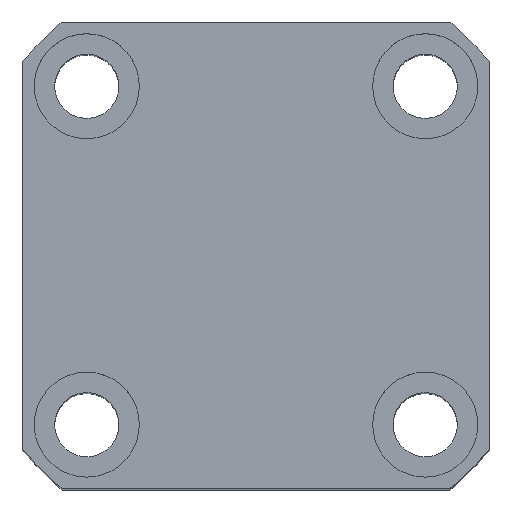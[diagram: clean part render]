
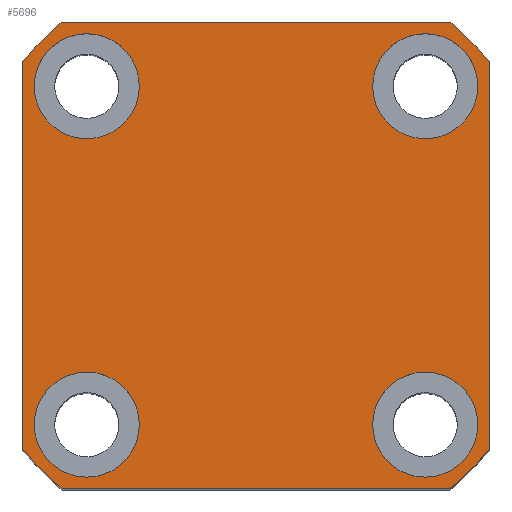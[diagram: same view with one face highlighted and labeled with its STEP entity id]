
A CAD part, top view. The second image highlights one B-rep face of the part: STEP entity #5696.
In plain terms, the highlighted planar face has unit normal (0, 0, 1).
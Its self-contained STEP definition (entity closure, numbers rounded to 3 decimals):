
#60 = VERTEX_POINT ( 'NONE', #1323 ) ;
#182 = EDGE_CURVE ( 'NONE', #425, #13714, #9238, .T. ) ;
#325 = ORIENTED_EDGE ( 'NONE', *, *, #10266, .F. ) ;
#346 = EDGE_LOOP ( 'NONE', ( #2213, #2320, #11495, #5745, #1855, #2074, #8862, #2486 ) ) ;
#425 = VERTEX_POINT ( 'NONE', #3259 ) ;
#501 = VERTEX_POINT ( 'NONE', #6821 ) ;
#619 = CARTESIAN_POINT ( 'NONE',  ( 40., -33.226, 60. ) ) ;
#685 = VERTEX_POINT ( 'NONE', #8089 ) ;
#728 = CARTESIAN_POINT ( 'NONE',  ( 38., -29., 60. ) ) ;
#837 = CARTESIAN_POINT ( 'NONE',  ( 0., 0., 60. ) ) ;
#855 = DIRECTION ( 'NONE',  ( 0., 0., 1. ) ) ;
#900 = DIRECTION ( 'NONE',  ( 1., 0., 0. ) ) ;
#920 = DIRECTION ( 'NONE',  ( 1., 0., 0. ) ) ;
#1323 = CARTESIAN_POINT ( 'NONE',  ( -40., 33.226, 60. ) ) ;
#1635 = DIRECTION ( 'NONE',  ( 0., 0., 1. ) ) ;
#1679 = EDGE_LOOP ( 'NONE', ( #5724, #10467 ) ) ;
#1855 = ORIENTED_EDGE ( 'NONE', *, *, #12272, .T. ) ;
#1912 = AXIS2_PLACEMENT_3D ( 'NONE', #8955, #2137, #10107 ) ;
#1946 = DIRECTION ( 'NONE',  ( 0., 0., 1. ) ) ;
#1963 = FACE_BOUND ( 'NONE', #5593, .T. ) ;
#2074 = ORIENTED_EDGE ( 'NONE', *, *, #14121, .T. ) ;
#2137 = DIRECTION ( 'NONE',  ( 0., 0., 1. ) ) ;
#2213 = ORIENTED_EDGE ( 'NONE', *, *, #4328, .T. ) ;
#2320 = ORIENTED_EDGE ( 'NONE', *, *, #11425, .T. ) ;
#2482 = EDGE_CURVE ( 'NONE', #12531, #425, #6650, .T. ) ;
#2486 = ORIENTED_EDGE ( 'NONE', *, *, #8775, .T. ) ;
#2795 = DIRECTION ( 'NONE',  ( 0., 0., 1. ) ) ;
#2817 = CARTESIAN_POINT ( 'NONE',  ( -29., -29., 60. ) ) ;
#2991 = CARTESIAN_POINT ( 'NONE',  ( 20., 29., 60. ) ) ;
#3035 = AXIS2_PLACEMENT_3D ( 'NONE', #8858, #855, #6631 ) ;
#3124 = CIRCLE ( 'NONE', #11826, 9. ) ;
#3203 = EDGE_CURVE ( 'NONE', #12970, #6734, #13859, .T. ) ;
#3259 = CARTESIAN_POINT ( 'NONE',  ( -33.226, -40., 60. ) ) ;
#3651 = DIRECTION ( 'NONE',  ( 0., 1., 0. ) ) ;
#3732 = FACE_BOUND ( 'NONE', #1679, .T. ) ;
#3741 = CIRCLE ( 'NONE', #11469, 52. ) ;
#3825 = CARTESIAN_POINT ( 'NONE',  ( -33.226, -40., 60. ) ) ;
#3935 = CARTESIAN_POINT ( 'NONE',  ( -29., -29., 60. ) ) ;
#4092 = CARTESIAN_POINT ( 'NONE',  ( -29., 29., 60. ) ) ;
#4328 = EDGE_CURVE ( 'NONE', #8240, #60, #3741, .T. ) ;
#4395 = DIRECTION ( 'NONE',  ( 1., 0., 0. ) ) ;
#4399 = CIRCLE ( 'NONE', #9200, 9. ) ;
#4416 = FACE_BOUND ( 'NONE', #8848, .T. ) ;
#4463 = VERTEX_POINT ( 'NONE', #728 ) ;
#4594 = AXIS2_PLACEMENT_3D ( 'NONE', #837, #1946, #11043 ) ;
#4793 = AXIS2_PLACEMENT_3D ( 'NONE', #4092, #9764, #8592 ) ;
#4985 = AXIS2_PLACEMENT_3D ( 'NONE', #2817, #1635, #9597 ) ;
#5058 = CARTESIAN_POINT ( 'NONE',  ( -33.226, 40., 60. ) ) ;
#5208 = VERTEX_POINT ( 'NONE', #11144 ) ;
#5211 = VERTEX_POINT ( 'NONE', #619 ) ;
#5383 = AXIS2_PLACEMENT_3D ( 'NONE', #12206, #11110, #4395 ) ;
#5467 = CIRCLE ( 'NONE', #6775, 9. ) ;
#5570 = EDGE_CURVE ( 'NONE', #6852, #9877, #8375, .T. ) ;
#5593 = EDGE_LOOP ( 'NONE', ( #10207, #7217 ) ) ;
#5672 = ORIENTED_EDGE ( 'NONE', *, *, #7394, .F. ) ;
#5696 = ADVANCED_FACE ( 'NONE', ( #7983, #4416, #1963, #3732, #13335 ), #13219, .T. ) ;
#5724 = ORIENTED_EDGE ( 'NONE', *, *, #3203, .F. ) ;
#5745 = ORIENTED_EDGE ( 'NONE', *, *, #182, .T. ) ;
#5754 = VECTOR ( 'NONE', #3651, 1000. ) ;
#5865 = VERTEX_POINT ( 'NONE', #9036 ) ;
#5966 = EDGE_CURVE ( 'NONE', #9877, #6852, #6036, .T. ) ;
#6036 = CIRCLE ( 'NONE', #10451, 9. ) ;
#6132 = EDGE_CURVE ( 'NONE', #5865, #5208, #9440, .T. ) ;
#6142 = CIRCLE ( 'NONE', #11046, 52. ) ;
#6206 = CARTESIAN_POINT ( 'NONE',  ( 33.226, -40., 60. ) ) ;
#6225 = EDGE_CURVE ( 'NONE', #4463, #6542, #4399, .T. ) ;
#6288 = CARTESIAN_POINT ( 'NONE',  ( 29., 29., 60. ) ) ;
#6542 = VERTEX_POINT ( 'NONE', #13447 ) ;
#6582 = DIRECTION ( 'NONE',  ( 0., 0., 1. ) ) ;
#6631 = DIRECTION ( 'NONE',  ( 1., 0., 0. ) ) ;
#6650 = CIRCLE ( 'NONE', #3035, 52. ) ;
#6734 = VERTEX_POINT ( 'NONE', #2991 ) ;
#6775 = AXIS2_PLACEMENT_3D ( 'NONE', #11133, #7705, #920 ) ;
#6813 = CARTESIAN_POINT ( 'NONE',  ( -29., 29., 60. ) ) ;
#6821 = CARTESIAN_POINT ( 'NONE',  ( 33.226, 40., 60. ) ) ;
#6852 = VERTEX_POINT ( 'NONE', #9735 ) ;
#7126 = CARTESIAN_POINT ( 'NONE',  ( 0., 0., 60. ) ) ;
#7217 = ORIENTED_EDGE ( 'NONE', *, *, #5966, .F. ) ;
#7284 = DIRECTION ( 'NONE',  ( 0., 0., 1. ) ) ;
#7394 = EDGE_CURVE ( 'NONE', #6542, #4463, #5467, .T. ) ;
#7527 = CARTESIAN_POINT ( 'NONE',  ( -40., -33.226, 60. ) ) ;
#7683 = CARTESIAN_POINT ( 'NONE',  ( 0., 0., 60. ) ) ;
#7705 = DIRECTION ( 'NONE',  ( 0., 0., 1. ) ) ;
#7775 = EDGE_LOOP ( 'NONE', ( #7807, #5672 ) ) ;
#7807 = ORIENTED_EDGE ( 'NONE', *, *, #6225, .F. ) ;
#7964 = DIRECTION ( 'NONE',  ( 1., 0., 0. ) ) ;
#7983 = FACE_BOUND ( 'NONE', #7775, .T. ) ;
#8072 = DIRECTION ( 'NONE',  ( 0., 0., 1. ) ) ;
#8089 = CARTESIAN_POINT ( 'NONE',  ( 40., 33.226, 60. ) ) ;
#8240 = VERTEX_POINT ( 'NONE', #11558 ) ;
#8375 = CIRCLE ( 'NONE', #4793, 9. ) ;
#8592 = DIRECTION ( 'NONE',  ( 1., 0., 0. ) ) ;
#8775 = EDGE_CURVE ( 'NONE', #501, #8240, #12175, .T. ) ;
#8793 = LINE ( 'NONE', #12718, #5754 ) ;
#8848 = EDGE_LOOP ( 'NONE', ( #10848, #325 ) ) ;
#8858 = CARTESIAN_POINT ( 'NONE',  ( 0., 0., 60. ) ) ;
#8862 = ORIENTED_EDGE ( 'NONE', *, *, #12337, .T. ) ;
#8907 = CARTESIAN_POINT ( 'NONE',  ( 29., -29., 60. ) ) ;
#8955 = CARTESIAN_POINT ( 'NONE',  ( 29., 29., 60. ) ) ;
#9036 = CARTESIAN_POINT ( 'NONE',  ( -20., -29., 60. ) ) ;
#9200 = AXIS2_PLACEMENT_3D ( 'NONE', #8907, #6582, #12302 ) ;
#9238 = LINE ( 'NONE', #3825, #11923 ) ;
#9440 = CIRCLE ( 'NONE', #11201, 9. ) ;
#9597 = DIRECTION ( 'NONE',  ( 1., 0., 0. ) ) ;
#9735 = CARTESIAN_POINT ( 'NONE',  ( -20., 29., 60. ) ) ;
#9764 = DIRECTION ( 'NONE',  ( 0., 0., 1. ) ) ;
#9877 = VERTEX_POINT ( 'NONE', #11431 ) ;
#10107 = DIRECTION ( 'NONE',  ( 1., 0., 0. ) ) ;
#10207 = ORIENTED_EDGE ( 'NONE', *, *, #5570, .F. ) ;
#10266 = EDGE_CURVE ( 'NONE', #5208, #5865, #14443, .T. ) ;
#10451 = AXIS2_PLACEMENT_3D ( 'NONE', #6813, #8072, #7964 ) ;
#10467 = ORIENTED_EDGE ( 'NONE', *, *, #12434, .F. ) ;
#10622 = DIRECTION ( 'NONE',  ( 1., 0., 0. ) ) ;
#10848 = ORIENTED_EDGE ( 'NONE', *, *, #6132, .F. ) ;
#11043 = DIRECTION ( 'NONE',  ( 1., 0., 0. ) ) ;
#11046 = AXIS2_PLACEMENT_3D ( 'NONE', #7683, #12252, #900 ) ;
#11110 = DIRECTION ( 'NONE',  ( 0., 0., 1. ) ) ;
#11133 = CARTESIAN_POINT ( 'NONE',  ( 29., -29., 60. ) ) ;
#11144 = CARTESIAN_POINT ( 'NONE',  ( -38., -29., 60. ) ) ;
#11201 = AXIS2_PLACEMENT_3D ( 'NONE', #3935, #14254, #11939 ) ;
#11425 = EDGE_CURVE ( 'NONE', #60, #12531, #11536, .T. ) ;
#11431 = CARTESIAN_POINT ( 'NONE',  ( -38., 29., 60. ) ) ;
#11462 = DIRECTION ( 'NONE',  ( 0., -1., 0. ) ) ;
#11469 = AXIS2_PLACEMENT_3D ( 'NONE', #7126, #7284, #11788 ) ;
#11495 = ORIENTED_EDGE ( 'NONE', *, *, #2482, .T. ) ;
#11518 = CIRCLE ( 'NONE', #5383, 52. ) ;
#11536 = LINE ( 'NONE', #12540, #14715 ) ;
#11558 = CARTESIAN_POINT ( 'NONE',  ( -33.226, 40., 60. ) ) ;
#11640 = VECTOR ( 'NONE', #13028, 1000. ) ;
#11788 = DIRECTION ( 'NONE',  ( 1., 0., 0. ) ) ;
#11826 = AXIS2_PLACEMENT_3D ( 'NONE', #6288, #2795, #14276 ) ;
#11923 = VECTOR ( 'NONE', #10622, 1000. ) ;
#11939 = DIRECTION ( 'NONE',  ( 1., 0., 0. ) ) ;
#12175 = LINE ( 'NONE', #5058, #11640 ) ;
#12206 = CARTESIAN_POINT ( 'NONE',  ( 0., 0., 60. ) ) ;
#12252 = DIRECTION ( 'NONE',  ( 0., 0., 1. ) ) ;
#12272 = EDGE_CURVE ( 'NONE', #13714, #5211, #6142, .T. ) ;
#12302 = DIRECTION ( 'NONE',  ( 1., 0., 0. ) ) ;
#12337 = EDGE_CURVE ( 'NONE', #685, #501, #11518, .T. ) ;
#12434 = EDGE_CURVE ( 'NONE', #6734, #12970, #3124, .T. ) ;
#12531 = VERTEX_POINT ( 'NONE', #7527 ) ;
#12540 = CARTESIAN_POINT ( 'NONE',  ( -40., 33.226, 60. ) ) ;
#12718 = CARTESIAN_POINT ( 'NONE',  ( 40., 33.226, 60. ) ) ;
#12970 = VERTEX_POINT ( 'NONE', #14572 ) ;
#13028 = DIRECTION ( 'NONE',  ( -1., 0., 0. ) ) ;
#13219 = PLANE ( 'NONE',  #4594 ) ;
#13335 = FACE_OUTER_BOUND ( 'NONE', #346, .T. ) ;
#13447 = CARTESIAN_POINT ( 'NONE',  ( 20., -29., 60. ) ) ;
#13714 = VERTEX_POINT ( 'NONE', #6206 ) ;
#13859 = CIRCLE ( 'NONE', #1912, 9. ) ;
#14121 = EDGE_CURVE ( 'NONE', #5211, #685, #8793, .T. ) ;
#14254 = DIRECTION ( 'NONE',  ( 0., 0., 1. ) ) ;
#14276 = DIRECTION ( 'NONE',  ( 1., 0., 0. ) ) ;
#14443 = CIRCLE ( 'NONE', #4985, 9. ) ;
#14572 = CARTESIAN_POINT ( 'NONE',  ( 38., 29., 60. ) ) ;
#14715 = VECTOR ( 'NONE', #11462, 1000. ) ;
